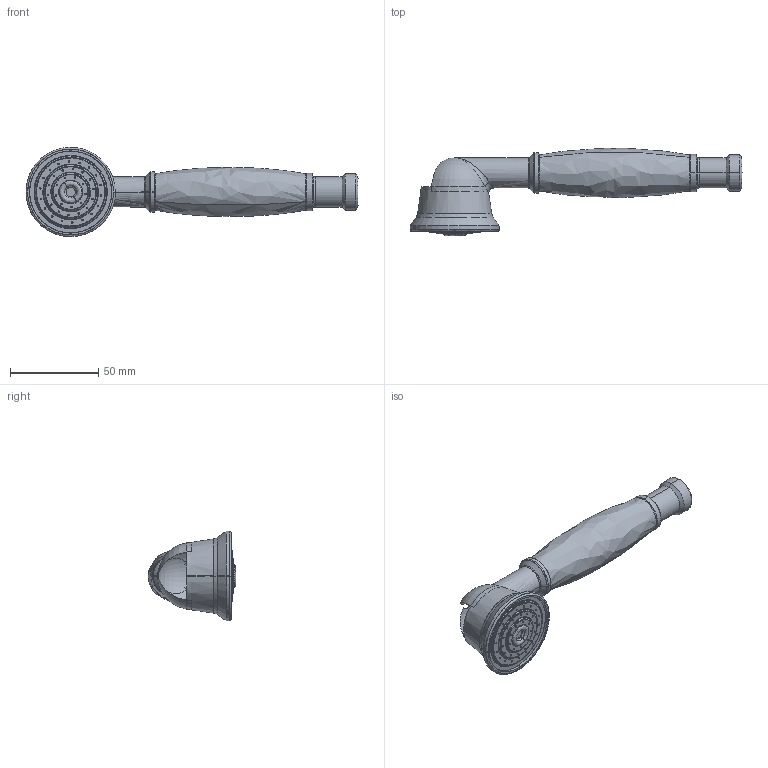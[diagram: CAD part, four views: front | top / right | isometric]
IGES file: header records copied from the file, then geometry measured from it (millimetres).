
Start section: SolidWorks IGES file using analytic representation for surfaces
Global section: file name: E:\工作文件\波兰\世纪系列\FH 505.IGS; native system: SolidWorks 2013; preprocessor: SolidWorks 2013; author: J1827277; date: 130503.143429; units: millimetre
Bounding box: 187.82 x 49.48 x 50.5 mm (x, y, z)
Surface area: 31321 mm2 (no closed solid volume)
Topology: 0 solids, 0 shells, 228 faces, 3775 edges, 3773 vertices
Faces by surface type: revolution 145, bspline 83
